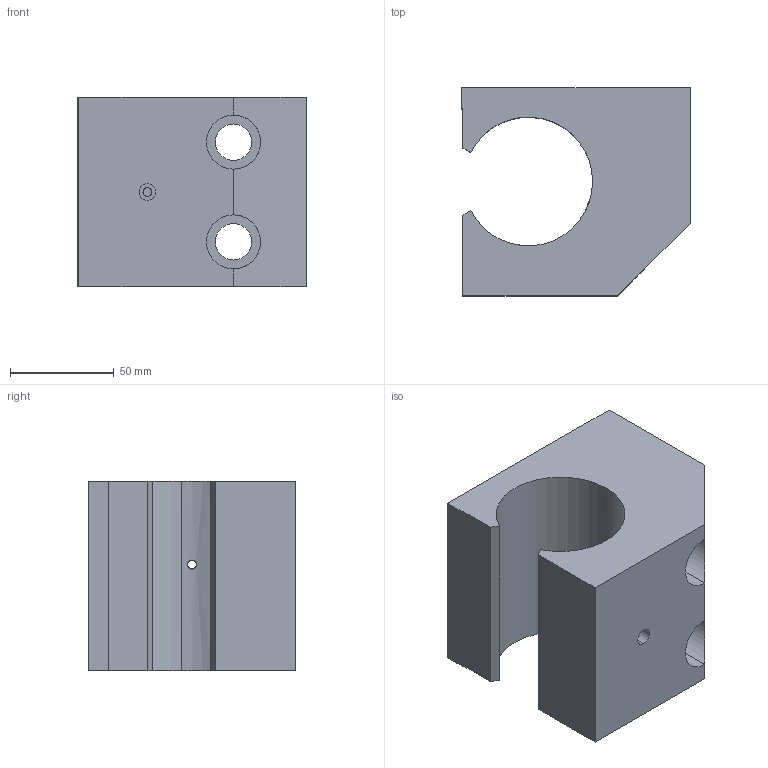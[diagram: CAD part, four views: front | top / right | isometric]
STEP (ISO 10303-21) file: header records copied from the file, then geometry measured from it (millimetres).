
FILE_DESCRIPTION (( 'STEP AP214' ), '1' );
FILE_NAME ('KGS71-40.step', '2020-03-04T13:23:50', ( '' ), ( '' ), 'SwSTEP 2.0', 'SolidWorks 2019', '' );
FILE_SCHEMA (( 'AUTOMOTIVE_DESIGN' ));
Length unit declared in the file: millimetre
Products named in the file (1): KGS71-40
Bounding box: 110 x 100 x 91 mm (x, y, z)
Volume: 595257.2 mm3; surface area: 75955.3 mm2
Topology: 1 solids, 1 shells, 35 faces, 90 edges, 58 vertices
Faces by surface type: cylinder 18, plane 15, cone 2
Entity records: 1318 total; most frequent: CARTESIAN_POINT 310, DIRECTION 188, ORIENTED_EDGE 180, EDGE_CURVE 90, AXIS2_PLACEMENT_3D 68, VERTEX_POINT 58, VECTOR 52, LINE 52
